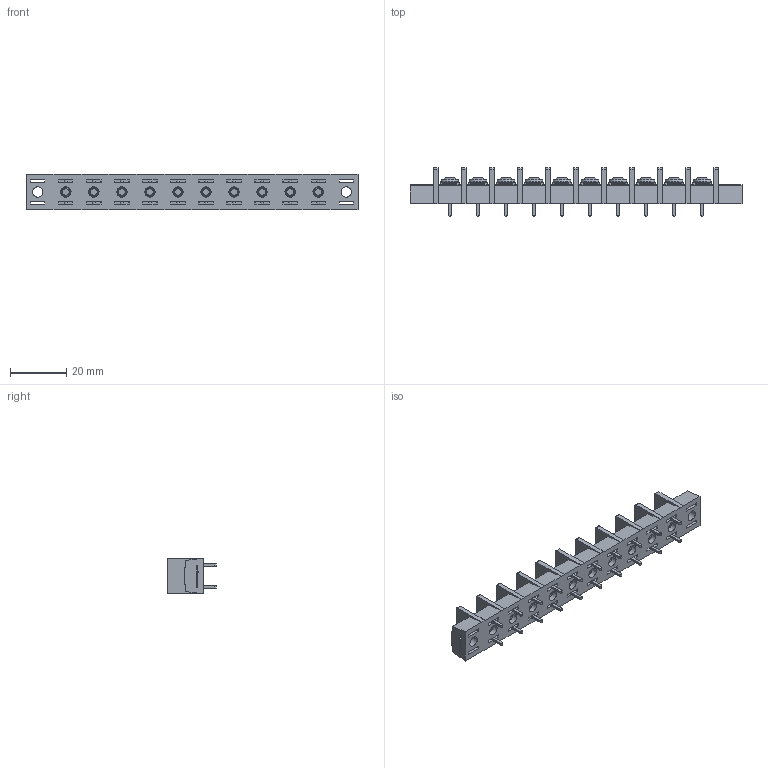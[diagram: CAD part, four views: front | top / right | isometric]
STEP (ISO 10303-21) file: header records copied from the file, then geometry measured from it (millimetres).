
FILE_DESCRIPTION(/* description */ ('Alibre Inc.'),/* implementation_level */ '2;1');
FILE_NAME(/* name */ 'export0',/* time_stamp */ '2015-10-23T18:54:02+09:00',/* author */ (''),/* organization */ (''),/* preprocessor_version */ 'ST-DEVELOPER v14',/* originating_system */ 'Alibre',/* authorisation */ '');
FILE_SCHEMA (('CONFIG_CONTROL_DESIGN'));
Length unit declared in the file: centimetre
Products named in the file (1): ID_1
Bounding box: 118.4 x 17.3 x 12.8 mm (x, y, z)
Volume: 10441.3 mm3; surface area: 12236.2 mm2
Topology: 1 solids, 171 shells, 3262 faces, 8372 edges, 5534 vertices
Faces by surface type: plane 2442, bspline 624, cylinder 116, cone 50, torus 20, sphere 10
Full cylindrical faces by diameter (mm): 3 x20, 3.7 x12, 4.6 x12, 6.3 x10
Entity records: 94303 total; most frequent: CARTESIAN_POINT 22687, ORIENTED_EDGE 16552, DIRECTION 9946, EDGE_CURVE 8276, VECTOR 6364, LINE 6364, VERTEX_POINT 5522, EDGE_LOOP 3580
